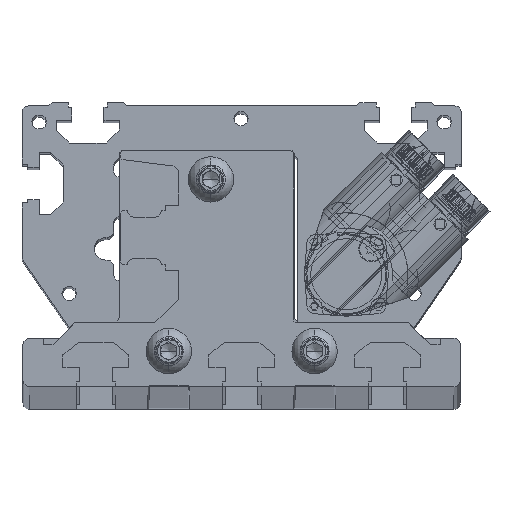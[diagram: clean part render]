
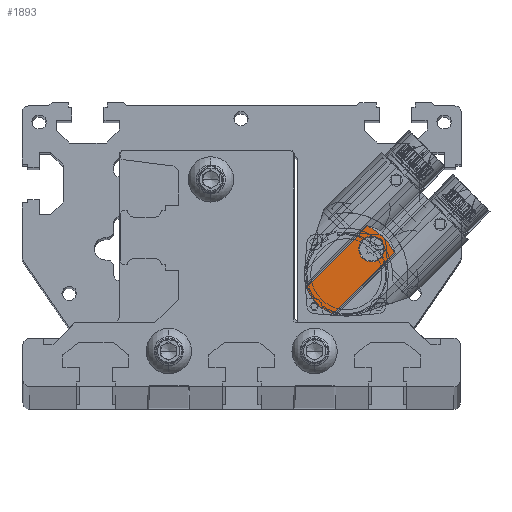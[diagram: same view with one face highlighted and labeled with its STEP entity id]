
A CAD part, top view. The second image highlights one B-rep face of the part: STEP entity #1893.
In plain terms, the highlighted planar face has unit normal (0, 0, 1).
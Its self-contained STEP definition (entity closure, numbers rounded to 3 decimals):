
#1893 = ADVANCED_FACE ( 'NONE', ( #26471, #26472 ), #27114, .T. ) ;
#4406 = ORIENTED_EDGE ( 'NONE', *, *, #18319, .T. ) ;
#4409 = ORIENTED_EDGE ( 'NONE', *, *, #21521, .T. ) ;
#4412 = ORIENTED_EDGE ( 'NONE', *, *, #21520, .F. ) ;
#4414 = ORIENTED_EDGE ( 'NONE', *, *, #25601, .T. ) ;
#4416 = ORIENTED_EDGE ( 'NONE', *, *, #25603, .T. ) ;
#4419 = ORIENTED_EDGE ( 'NONE', *, *, #22884, .T. ) ;
#4426 = CARTESIAN_POINT ( 'NONE',  ( -12.275, -3.968, 18.8 ) ) ;
#4570 = CARTESIAN_POINT ( 'NONE',  ( 6.567, 14.874, 18.8 ) ) ;
#4606 = CARTESIAN_POINT ( 'NONE',  ( 10.607, 10.607, 18.8 ) ) ;
#4716 = CARTESIAN_POINT ( 'NONE',  ( 4.95, 4.95, 18.8 ) ) ;
#4731 = CARTESIAN_POINT ( 'NONE',  ( 14.874, 6.567, 18.8 ) ) ;
#4755 = CARTESIAN_POINT ( 'NONE',  ( -3.968, -12.275, 18.8 ) ) ;
#11037 = CARTESIAN_POINT ( 'NONE',  ( 0., 0., 18.8 ) ) ;
#11038 = DIRECTION ( 'NONE',  ( 0., 0., -1. ) ) ;
#11039 = DIRECTION ( 'NONE',  ( 0.707, -0.707, 0. ) ) ;
#11040 = CARTESIAN_POINT ( 'NONE',  ( 7.778, 7.778, 18.8 ) ) ;
#11041 = DIRECTION ( 'NONE',  ( 0., 0., -1. ) ) ;
#11042 = DIRECTION ( 'NONE',  ( -0.707, -0.707, 0. ) ) ;
#11874 = VERTEX_POINT ( 'NONE', #4426 ) ;
#11942 = VERTEX_POINT ( 'NONE', #4570 ) ;
#11957 = VERTEX_POINT ( 'NONE', #4606 ) ;
#12009 = VERTEX_POINT ( 'NONE', #4716 ) ;
#12015 = VERTEX_POINT ( 'NONE', #4731 ) ;
#12027 = VERTEX_POINT ( 'NONE', #4755 ) ;
#13562 = CARTESIAN_POINT ( 'NONE',  ( 7.778, 7.778, 18.8 ) ) ;
#13563 = DIRECTION ( 'NONE',  ( 0., 0., -1. ) ) ;
#13564 = DIRECTION ( 'NONE',  ( -0.707, -0.707, 0. ) ) ;
#14523 = CIRCLE ( 'NONE', #17090, 4. ) ;
#17090 = AXIS2_PLACEMENT_3D ( 'NONE', #13562, #13563, #13564 ) ;
#17249 = AXIS2_PLACEMENT_3D ( 'NONE', #11037, #11038, #11039 ) ;
#17250 = AXIS2_PLACEMENT_3D ( 'NONE', #11040, #11041, #11042 ) ;
#18319 = EDGE_CURVE ( 'NONE', #12009, #11957, #14523, .T. ) ;
#21520 = EDGE_CURVE ( 'NONE', #12027, #11874, #37944, .T. ) ;
#21521 = EDGE_CURVE ( 'NONE', #11957, #12009, #37947, .T. ) ;
#22283 = AXIS2_PLACEMENT_3D ( 'NONE', #27115, #27116, #27117 ) ;
#22884 = EDGE_CURVE ( 'NONE', #11942, #11874, #38783, .T. ) ;
#25601 = EDGE_CURVE ( 'NONE', #12027, #12015, #34099, .T. ) ;
#25603 = EDGE_CURVE ( 'NONE', #12015, #11942, #34852, .T. ) ;
#26471 = FACE_BOUND ( 'NONE', #42262, .T. ) ;
#26472 = FACE_OUTER_BOUND ( 'NONE', #42263, .T. ) ;
#27114 = PLANE ( 'NONE',  #22283 ) ;
#27115 = CARTESIAN_POINT ( 'NONE',  ( 9.581, 9.581, 18.8 ) ) ;
#27116 = DIRECTION ( 'NONE',  ( 0., 0., 1. ) ) ;
#27117 = DIRECTION ( 'NONE',  ( 0.707, -0.707, 0. ) ) ;
#34099 = LINE ( 'NONE', #35081, #34100 ) ;
#34100 = VECTOR ( 'NONE', #35082, 1000. ) ;
#34852 = B_SPLINE_CURVE_WITH_KNOTS ( 'NONE', 3,
 ( #35087, #35088, #35089, #35090, #35091, #35092, #35093, #35094, #35095, #35096, #35097, #35098 ),
 .UNSPECIFIED., .F., .F.,
 ( 4, 2, 2, 2, 2, 4 ),
 ( 0., 0.003, 0.006, 0.007, 0.009, 0.012 ),
 .UNSPECIFIED. ) ;
#35081 = CARTESIAN_POINT ( 'NONE',  ( 13.735, 5.428, 18.8 ) ) ;
#35082 = DIRECTION ( 'NONE',  ( 0.707, 0.707, 0. ) ) ;
#35087 = CARTESIAN_POINT ( 'NONE',  ( 14.874, 6.567, 18.8 ) ) ;
#35088 = CARTESIAN_POINT ( 'NONE',  ( 14.421, 7.463, 18.8 ) ) ;
#35089 = CARTESIAN_POINT ( 'NONE',  ( 13.902, 8.311, 18.8 ) ) ;
#35090 = CARTESIAN_POINT ( 'NONE',  ( 12.741, 9.914, 18.8 ) ) ;
#35091 = CARTESIAN_POINT ( 'NONE',  ( 12.098, 10.67, 18.8 ) ) ;
#35092 = CARTESIAN_POINT ( 'NONE',  ( 11.037, 11.732, 18.8 ) ) ;
#35093 = CARTESIAN_POINT ( 'NONE',  ( 10.668, 12.073, 18.8 ) ) ;
#35094 = CARTESIAN_POINT ( 'NONE',  ( 9.909, 12.72, 18.8 ) ) ;
#35095 = CARTESIAN_POINT ( 'NONE',  ( 9.519, 13.027, 18.8 ) ) ;
#35096 = CARTESIAN_POINT ( 'NONE',  ( 8.312, 13.902, 18.8 ) ) ;
#35097 = CARTESIAN_POINT ( 'NONE',  ( 7.463, 14.421, 18.8 ) ) ;
#35098 = CARTESIAN_POINT ( 'NONE',  ( 6.567, 14.874, 18.8 ) ) ;
#37944 = CIRCLE ( 'NONE', #17249, 12.9 ) ;
#37947 = CIRCLE ( 'NONE', #17250, 4. ) ;
#38783 = LINE ( 'NONE', #40477, #38785 ) ;
#38785 = VECTOR ( 'NONE', #40478, 1000. ) ;
#40477 = CARTESIAN_POINT ( 'NONE',  ( 5.428, 13.735, 18.8 ) ) ;
#40478 = DIRECTION ( 'NONE',  ( -0.707, -0.707, 0. ) ) ;
#42262 = EDGE_LOOP ( 'NONE', ( #4406, #4409 ) ) ;
#42263 = EDGE_LOOP ( 'NONE', ( #4412, #4414, #4416, #4419 ) ) ;
